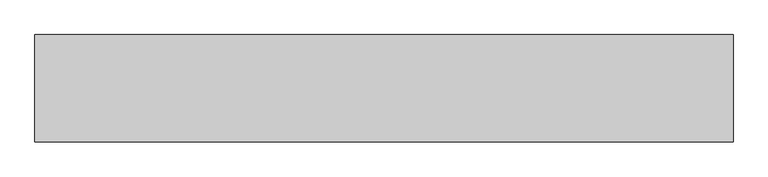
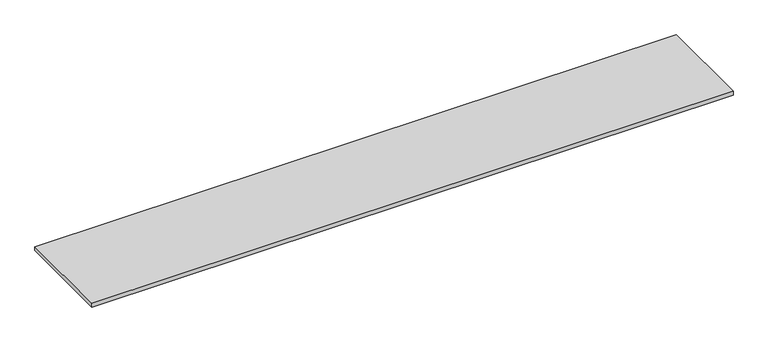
"""IFC4 building model written with IfcOpenShell, lengths in millimetres: furniture geometry, Bancada_balcao : Bancada cantina."""

from ifc_helpers import new_model, si_unit, frame, origin, place, context, project, spatial, polyline, outline, extrude, source, transform, mapped, element, save


def furniture_dfb6f5b8(model_context):
    return source(origin(), model_context, "Body", "SweptSolid", [
        extrude(outline(polyline([(1669.7003264, 0.0), (1669.7003264, -500.0), (-1580.2996736, -500.0), (-1580.2996736, 0.0), (1669.7003264, 0.0)])), frame((0.0, 0.0, 880.0), z_axis=(0.0, 0.0, 1.0), x_axis=(1.0, 0.0, 0.0)), (0.0, 0.0, 1.0), 20.0),
    ])


if __name__ == "__main__":
    model = new_model("IFC4")
    model_context = context("Model", 3, world=origin())
    ifc_project = project(units=[si_unit("LENGTHUNIT", "METRE", prefix="MILLI")], contexts=[model_context])
    site = spatial("IfcSite", under=ifc_project)
    building = spatial("IfcBuilding", under=site)
    placement = place(None, origin())
    furniture_shape = furniture_dfb6f5b8(model_context)
    element("IfcFurniture", 1, ObjectType="Bancada_balcao : Bancada cantina", at=placement, inside=building, context=model_context, shape_type="MappedRepresentation", body=[
        mapped(furniture_shape, transform((0.0, 0.0, 0.0), x_axis=(1.0, 0.0, 0.0), y_axis=(0.0, 1.0, 0.0), z_axis=(0.0, 0.0, 1.0))),
    ])
    save(model, "model.ifc")
